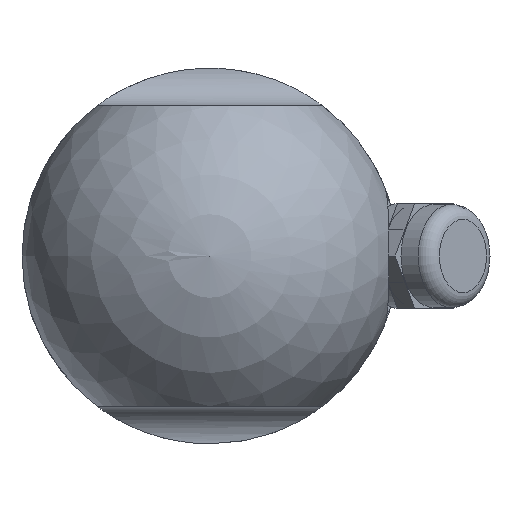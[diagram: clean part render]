
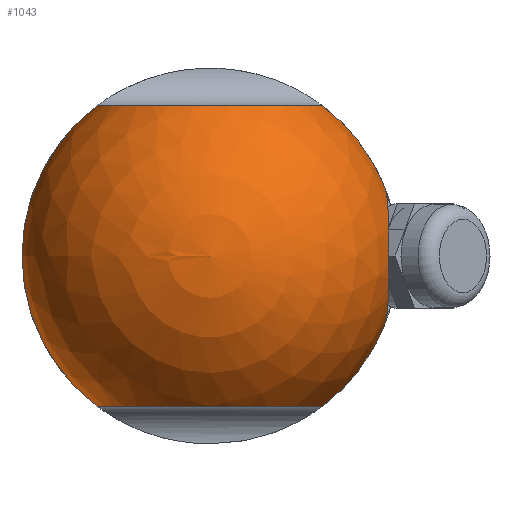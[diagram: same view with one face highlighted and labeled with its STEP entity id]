
A CAD part, left-side view. The second image highlights one B-rep face of the part: STEP entity #1043.
In plain terms, the highlighted spherical face has radius 25 mm.
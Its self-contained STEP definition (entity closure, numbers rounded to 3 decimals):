
#20=SPHERICAL_SURFACE('',#1229,25.);
#27=B_SPLINE_CURVE_WITH_KNOTS('',3,(#1871,#1872,#1873,#1874,#1875,#1876,
#1877,#1878,#1879,#1880,#1881),.UNSPECIFIED.,.F.,.F.,(4,1,1,1,1,1,1,1,4),
(0.,0.003,0.006,0.009,
0.013,0.016,0.019,0.022,
0.025),.UNSPECIFIED.);
#372=ORIENTED_EDGE('',*,*,#551,.F.);
#373=ORIENTED_EDGE('',*,*,#552,.T.);
#374=ORIENTED_EDGE('',*,*,#553,.F.);
#375=ORIENTED_EDGE('',*,*,#544,.T.);
#376=ORIENTED_EDGE('',*,*,#554,.F.);
#377=ORIENTED_EDGE('',*,*,#550,.T.);
#544=EDGE_CURVE('',#653,#654,#724,.F.);
#550=EDGE_CURVE('',#658,#659,#726,.F.);
#551=EDGE_CURVE('',#660,#659,#727,.T.);
#552=EDGE_CURVE('',#660,#661,#27,.T.);
#553=EDGE_CURVE('',#653,#661,#728,.T.);
#554=EDGE_CURVE('',#658,#654,#729,.T.);
#653=VERTEX_POINT('',#1836);
#654=VERTEX_POINT('',#1838);
#658=VERTEX_POINT('',#1864);
#659=VERTEX_POINT('',#1866);
#660=VERTEX_POINT('',#1870);
#661=VERTEX_POINT('',#1882);
#724=CIRCLE('',#1223,15.);
#726=CIRCLE('',#1228,15.);
#727=CIRCLE('',#1230,25.);
#728=CIRCLE('',#1231,25.);
#729=CIRCLE('',#1232,25.);
#827=EDGE_LOOP('',(#372,#373,#374,#375,#376,#377));
#943=FACE_BOUND('',#827,.T.);
#1043=ADVANCED_FACE('',(#943),#20,.T.);
#1223=AXIS2_PLACEMENT_3D('',#1839,#1491,#1492);
#1228=AXIS2_PLACEMENT_3D('',#1867,#1504,#1505);
#1229=AXIS2_PLACEMENT_3D('',#1868,#1506,#1507);
#1230=AXIS2_PLACEMENT_3D('',#1869,#1508,#1509);
#1231=AXIS2_PLACEMENT_3D('',#1883,#1510,#1511);
#1232=AXIS2_PLACEMENT_3D('',#1884,#1512,#1513);
#1491=DIRECTION('',(0.,0.,1.));
#1492=DIRECTION('',(1.,0.,0.));
#1504=DIRECTION('',(0.,0.,-1.));
#1505=DIRECTION('',(-1.,0.,0.));
#1506=DIRECTION('',(1.,0.,0.));
#1507=DIRECTION('',(0.,1.,0.));
#1508=DIRECTION('',(1.,0.,0.));
#1509=DIRECTION('',(0.,0.,-1.));
#1510=DIRECTION('',(1.,0.,0.));
#1511=DIRECTION('',(0.,0.,-1.));
#1512=DIRECTION('',(1.,0.,0.));
#1513=DIRECTION('',(0.,0.,-1.));
#1836=CARTESIAN_POINT('',(0.,-15.,20.));
#1838=CARTESIAN_POINT('',(0.,15.,20.));
#1839=CARTESIAN_POINT('',(0.,0.,20.));
#1864=CARTESIAN_POINT('',(0.,15.,-20.));
#1866=CARTESIAN_POINT('',(0.,-15.,-20.));
#1867=CARTESIAN_POINT('',(0.,0.,-20.));
#1868=CARTESIAN_POINT('',(0.,0.,0.));
#1869=CARTESIAN_POINT('',(0.,0.,0.));
#1870=CARTESIAN_POINT('',(0.,-23.245,-9.201));
#1871=CARTESIAN_POINT('',(0.,-23.245,-9.201));
#1872=CARTESIAN_POINT('',(-0.991,-23.39,-8.835));
#1873=CARTESIAN_POINT('',(-2.884,-23.604,-7.93));
#1874=CARTESIAN_POINT('',(-5.378,-23.765,-5.896));
#1875=CARTESIAN_POINT('',(-7.142,-23.816,-3.197));
#1876=CARTESIAN_POINT('',(-7.805,-23.823,-0.024));
#1877=CARTESIAN_POINT('',(-7.159,-23.817,3.163));
#1878=CARTESIAN_POINT('',(-5.39,-23.765,5.883));
#1879=CARTESIAN_POINT('',(-2.912,-23.607,7.914));
#1880=CARTESIAN_POINT('',(-0.993,-23.39,8.835));
#1881=CARTESIAN_POINT('',(0.,-23.245,9.201));
#1882=CARTESIAN_POINT('',(0.,-23.245,9.201));
#1883=CARTESIAN_POINT('',(0.,0.,0.));
#1884=CARTESIAN_POINT('',(0.,0.,0.));
